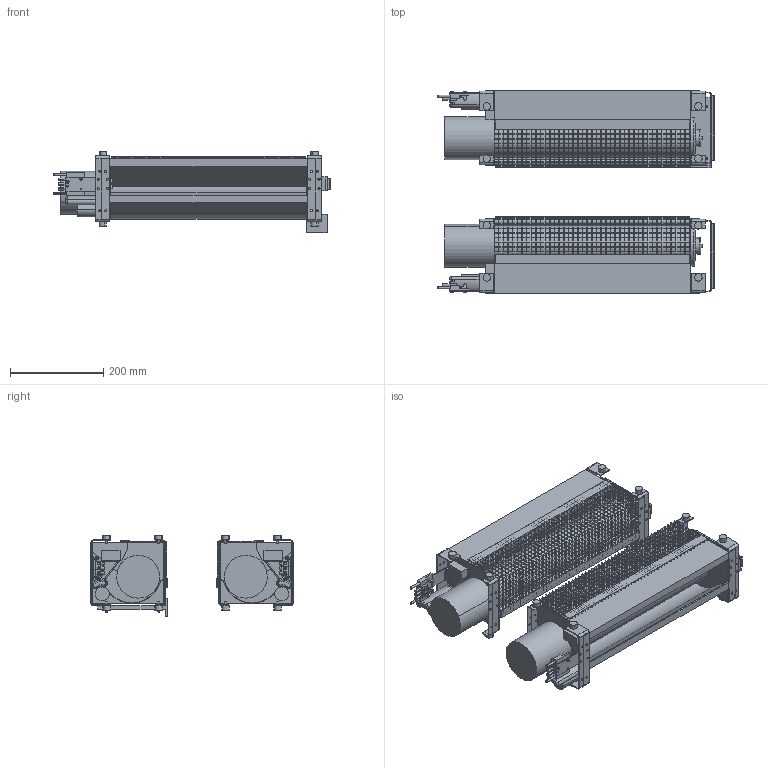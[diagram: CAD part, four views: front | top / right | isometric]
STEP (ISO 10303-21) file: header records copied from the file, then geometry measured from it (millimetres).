
FILE_DESCRIPTION(('HOOPS Exchange Step'),'2;1');
FILE_NAME('C:\hadoop-env\accvizpipeline-1.0.0\AccVizTemp_fnunnxxr45o\out_fdded9ab-bc46-43b9-b4dd-60a86f08f9e4.stp','2021-05-13T14:13:31+02:00',('plmconv'),('Unknown organisation'),'HOOPS Exchange 2020.2','HOOPS Exchange','Unknown authorisation');
FILE_SCHEMA( ('AP242_MANAGED_MODEL_BASED_3D_ENGINEERING_MIM_LF {1 0 10303 442 1 1 4 }') );
Length unit declared in the file: millimetre
Products named in the file (24): ST0824493_01; ST0815229_01; ST0815181_01; ST0723191_01; ST0725468_01; ST0729839_01; ST0729836_01; ST0725128_01; ST0730020_01; ST0729956_01; ISO 4762 M3x20-A4_01; ISO 4032_M3-8-A0U_01; ISO 4762_M3x16-8.8-A0C_01; ST0729874_01(ST0729874_01.1); ST0729874_01(ST0729874_01.2); ST0809147_01; ST0815016_01; ST0733570_01; ST0815018_01(ST0815018_01.1); ISO 4762_M4x20-12.9-A0U_01; ISO 10511_M4-8-A0U_01; Product1(Visserie); ST0821757_01; ST0821760_01
Assembly tree (60 placements, depth 3):
  ST0821760_01
    ST0824493_01
    ST0815229_01  x4
    ST0815181_01  x4
    ST0723191_01  x16
    ST0725468_01  x2
    ST0729874_01(ST0729874_01.1)
      ST0729839_01
      ST0729836_01
      ST0725128_01
      ST0730020_01
      ST0729956_01  x2
      ISO 4762 M3x20-A4_01
      ISO 4032_M3-8-A0U_01
      ISO 4762_M3x16-8.8-A0C_01
    ST0729874_01(ST0729874_01.2)
      ST0729839_01
      ST0729836_01
      ST0725128_01
      ST0730020_01
      ST0729956_01  x2
      ISO 4762 M3x20-A4_01
      ISO 4032_M3-8-A0U_01
      ISO 4762_M3x16-8.8-A0C_01
    ST0809147_01  x2
    ST0815018_01(ST0815018_01.1)
      ST0815016_01
      ST0733570_01  x2
    Product1(Visserie)
      ISO 4762_M4x20-12.9-A0U_01  x2
      ISO 10511_M4-8-A0U_01  x2
    ST0821757_01  x2
Bounding box: 593 x 435 x 175 mm (x, y, z)
Volume: 9895084 mm3; surface area: 1604123.6 mm2
Topology: 57 solids, 57 shells, 8370 faces, 24158 edges, 15842 vertices
Faces by surface type: plane 7554, cylinder 618, cone 96, torus 52, sphere 40, bspline 10
Entity records: 141766 total; most frequent: CARTESIAN_POINT 27169, ORIENTED_EDGE 24306, DIRECTION 21305, EDGE_CURVE 12111, VECTOR 11307, LINE 11307, VERTEX_POINT 7949, EDGE_LOOP 5673
